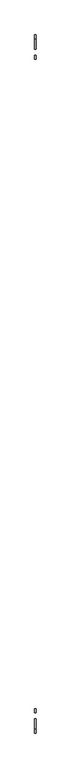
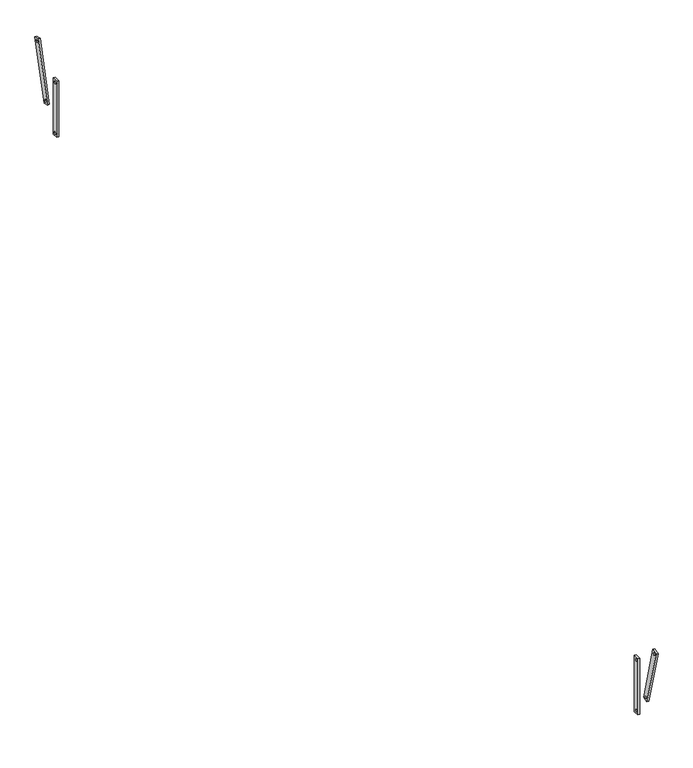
"""IFC4 building model written with IfcOpenShell, lengths in millimetres: proxy geometry, Modelos genéricos 291 : Modelos genéricos 278."""

import ifcopenshell
import ifcopenshell.guid

model = None  # the IFC model being written
_history = None  # IfcOwnerHistory: only IFC2X3 demands one
_inside = {}  # id of a spatial element -> (the spatial element, [elements in it])
_under = {}  # id of a project, library or spatial element -> (it, [spatial elements below it])
_declared = {}  # id of a project -> (the project, [libraries it declares])
_typed = {}  # id of a type object -> (the type object, [elements of that type])
_made_of = {}  # id of a material, layer set ... -> (it, [elements and type objects made of it])


def new_model(schema):
    """Start an empty IFC model of exactly this schema.

    Asked for "IFC4X3", IfcOpenShell would pick the latest addendum, in which some entities
    have other attributes; the version numbers below select the first issue.
    IFC2X3 requires an IfcOwnerHistory on every rooted entity: one is made here for all.
    """
    global model, _history
    if schema == "IFC4X3":
        model = ifcopenshell.file(schema_version=(4, 3, 0, 0))
    else:
        model = ifcopenshell.file(schema=schema)
    _inside.clear()
    _under.clear()
    _declared.clear()
    _typed.clear()
    _made_of.clear()
    _history = None
    if model.schema == "IFC2X3":
        org = make("IfcOrganization", Name="unknown")
        user = make(
            "IfcPersonAndOrganization",
            ThePerson=make("IfcPerson", FamilyName="unknown"),
            TheOrganization=org,
        )
        app = make(
            "IfcApplication",
            ApplicationDeveloper=org,
            Version="unknown",
            ApplicationFullName="unknown",
            ApplicationIdentifier="unknown",
        )
        _history = make(
            "IfcOwnerHistory",
            OwningUser=user,
            OwningApplication=app,
            ChangeAction="ADDED",
            CreationDate=0,
        )
    return model


def make(cls, **values):
    """One entity of the class cls with the attributes given. An attribute that is None is left unset."""
    return model.create_entity(
        cls, **{name: value for name, value in values.items() if value is not None}
    )


def rooted(cls, **values):
    """An entity with a GlobalId (a new one), such as an element, a storey or a relation."""
    return make(cls, GlobalId=ifcopenshell.guid.new(), OwnerHistory=_history, **values)


def si_unit(unit_type, name, prefix=None):
    """IfcSIUnit, for example si_unit("LENGTHUNIT", "METRE", prefix="MILLI")."""
    return make("IfcSIUnit", UnitType=unit_type, Prefix=prefix, Name=name)


def assignment(units):
    """IfcUnitAssignment: the units of a project."""
    return None if units is None else make("IfcUnitAssignment", Units=units)


def point(xyz):
    """IfcCartesianPoint."""
    return None if xyz is None else make("IfcCartesianPoint", Coordinates=xyz)


def direction(xyz):
    """IfcDirection."""
    return None if xyz is None else make("IfcDirection", DirectionRatios=xyz)


def frame(location, z_axis=None, x_axis=None):
    """IfcAxis2Placement3D, a coordinate frame: its origin and axes. An axis left out is left unset."""
    return make(
        "IfcAxis2Placement3D",
        Location=point(location),
        Axis=direction(z_axis),
        RefDirection=direction(x_axis),
    )


def frame_2d(location, x_axis=None):
    """IfcAxis2Placement2D, a coordinate frame in the plane: its origin and x axis."""
    return make(
        "IfcAxis2Placement2D", Location=point(location), RefDirection=direction(x_axis)
    )


def origin():
    """The frame at (0, 0, 0) with its axes left unset."""
    return frame((0.0, 0.0, 0.0))


def place(relative_to, where):
    """IfcLocalPlacement: puts the frame where relative to a parent placement (None: the world)."""
    return make(
        "IfcLocalPlacement", PlacementRelTo=relative_to, RelativePlacement=where
    )


def context(
    kind, dimensions, precision=None, world=None, true_north=None, identifier=None
):
    """IfcGeometricRepresentationContext, for example the 3D "Model" context."""
    return make(
        "IfcGeometricRepresentationContext",
        ContextIdentifier=identifier,
        ContextType=kind,
        CoordinateSpaceDimension=dimensions,
        Precision=precision,
        WorldCoordinateSystem=world,
        TrueNorth=true_north,
    )


def project(units=None, contexts=None):
    """IfcProject with its units and contexts."""
    return rooted(
        "IfcProject",
        Name="project",
        RepresentationContexts=contexts,
        UnitsInContext=assignment(units),
    )


def spatial(cls, under=None, at=None, **own):
    """A site, building, storey or space (cls), placed at a placement, below another one or the project."""
    s = rooted(cls, ObjectPlacement=at, **own)
    if under is not None:
        _under.setdefault(under.id(), (under, []))[1].append(s)
    return s


def polyline(points):
    """IfcPolyline through the points."""
    return make("IfcPolyline", Points=[point(p) for p in points])


def circle_curve(where, radius):
    """IfcCircle in the frame where."""
    return make("IfcCircle", Position=where, Radius=radius)


def trimmed(basis, trim1, trim2, sense, master):
    """IfcTrimmedCurve: the piece of a basis curve between two trims."""
    return make(
        "IfcTrimmedCurve",
        BasisCurve=basis,
        Trim1=trim1,
        Trim2=trim2,
        SenseAgreement=sense,
        MasterRepresentation=master,
    )


def segment(curve, same_sense, transition):
    """IfcCompositeCurveSegment."""
    return make(
        "IfcCompositeCurveSegment",
        Transition=transition,
        SameSense=same_sense,
        ParentCurve=curve,
    )


def composite_curve(segments, self_intersect=None):
    """IfcCompositeCurve: segments joined end to end."""
    return make("IfcCompositeCurve", Segments=segments, SelfIntersect=self_intersect)


def outline(outer, holes=None, kind="AREA"):
    """IfcArbitraryClosedProfileDef: a profile drawn as a closed curve; with holes, ...WithVoids."""
    if holes is None:
        return make("IfcArbitraryClosedProfileDef", ProfileType=kind, OuterCurve=outer)
    return make(
        "IfcArbitraryProfileDefWithVoids",
        ProfileType=kind,
        OuterCurve=outer,
        InnerCurves=holes,
    )


def extrude(swept, where, along, depth):
    """IfcExtrudedAreaSolid: the profile swept, set in the frame where, extruded along a direction by depth."""
    return make(
        "IfcExtrudedAreaSolid",
        SweptArea=swept,
        Position=where,
        ExtrudedDirection=direction(along),
        Depth=depth,
    )


def shape(context_of_items, identifier, shape_type, items):
    """IfcShapeRepresentation: the items that make up one representation, for example the "Body"."""
    return make(
        "IfcShapeRepresentation",
        ContextOfItems=context_of_items,
        RepresentationIdentifier=identifier,
        RepresentationType=shape_type,
        Items=items,
    )


def source(mapping_origin, context_of_items, identifier, shape_type, items):
    """IfcRepresentationMap: a shape defined once, which mapped items show again and again."""
    return make(
        "IfcRepresentationMap",
        MappingOrigin=mapping_origin,
        MappedRepresentation=shape(context_of_items, identifier, shape_type, items),
    )


def transform(
    local_origin,
    x_axis=None,
    y_axis=None,
    z_axis=None,
    scale=None,
    scale2=None,
    scale3=None,
    uniform=True,
):
    """IfcCartesianTransformationOperator3D, or its non-uniform kind. x_axis, y_axis, z_axis: its Axis1, 2, 3."""
    if uniform:
        return make(
            "IfcCartesianTransformationOperator3D",
            Axis1=direction(x_axis),
            Axis2=direction(y_axis),
            LocalOrigin=point(local_origin),
            Scale=scale,
            Axis3=direction(z_axis),
        )
    return make(
        "IfcCartesianTransformationOperator3DnonUniform",
        Axis1=direction(x_axis),
        Axis2=direction(y_axis),
        LocalOrigin=point(local_origin),
        Scale=scale,
        Axis3=direction(z_axis),
        Scale2=scale2,
        Scale3=scale3,
    )


def mapped(mapping_source, mapping_target):
    """IfcMappedItem: shows the shape of a source again, moved by a transform."""
    return make(
        "IfcMappedItem", MappingSource=mapping_source, MappingTarget=mapping_target
    )


def made_of(thing, what):
    """Note that an element or type object is made of a material, layer set ...; save() writes the relation."""
    if what is not None:
        _made_of.setdefault(what.id(), (what, []))[1].append(thing)
    return thing


def element(
    cls,
    number,
    at=None,
    inside=None,
    cuts=None,
    type_object=None,
    material=None,
    context=None,
    identifier="Body",
    shape_type=None,
    held_by="IfcProductDefinitionShape",
    body=None,
    shapes=None,
    **own,
):
    """One element of the class cls, such as IfcWall. Its Tag is "e" and its number.

    at: its placement. inside: the storey or other place that contains it. cuts: it is an
    opening in that element (IfcRelVoidsElement). A single representation is given by context,
    identifier, shape_type and body (its items); several are given by shapes. held_by: the class
    of the entity that holds the representations. save() writes the other relations.
    """
    e = rooted(cls, Tag="e%d" % number, ObjectPlacement=at, **own)
    if body is not None:
        shapes = [shape(context, identifier, shape_type, body)]
    if shapes is not None:
        e.Representation = make(held_by, Representations=shapes)
    if inside is not None:
        _inside.setdefault(inside.id(), (inside, []))[1].append(e)
    if cuts is not None:
        rooted(
            "IfcRelVoidsElement", RelatingBuildingElement=cuts, RelatedOpeningElement=e
        )
    if type_object is not None:
        _typed.setdefault(type_object.id(), (type_object, []))[1].append(e)
    return made_of(e, material)


def aggregate(whole, parts):
    """IfcRelAggregates: a whole, such as a stair, and the parts it consists of."""
    return rooted("IfcRelAggregates", RelatingObject=whole, RelatedObjects=parts)


def save(model, path):
    """Write the relations noted so far, then the file.

    IfcRelAggregates (storeys below a building ...), IfcRelContainedInSpatialStructure (elements
    in a storey), IfcRelDefinesByType, IfcRelAssociatesMaterial and IfcRelDeclares: one each for
    every whole, place, type object, material and project.
    """
    for whole, parts in _under.values():
        aggregate(whole, parts)
    for where, things in _inside.values():
        rooted(
            "IfcRelContainedInSpatialStructure",
            RelatedElements=things,
            RelatingStructure=where,
        )
    for kind, things in _typed.values():
        rooted("IfcRelDefinesByType", RelatedObjects=things, RelatingType=kind)
    for what, things in _made_of.values():
        rooted("IfcRelAssociatesMaterial", RelatedObjects=things, RelatingMaterial=what)
    for by, libraries in _declared.values():
        rooted("IfcRelDeclares", RelatingContext=by, RelatedDefinitions=libraries)
    model.write(path)


def generic_models_19469829(model_context):
    return source(origin(), model_context, "Body", "SweptSolid", [
        extrude(outline(polyline([(5318.6238165, 2800.0), (5318.6238165, 3200.0), (5358.6238165, 3200.0), (5358.6238165, 2800.0), (5318.6238165, 2800.0)]), holes=[composite_curve([segment(trimmed(circle_curve(frame_2d((5338.6238165, 3180.0)), 7.5), [point((5346.1238165, 3180.0))], [point((5331.1238165, 3180.0))], True, "CARTESIAN"), True, "CONTINUOUS"), segment(trimmed(circle_curve(frame_2d((5338.6238165, 3180.0)), 7.5), [point((5331.1238165, 3180.0))], [point((5346.1238165, 3180.0))], True, "CARTESIAN"), True, "CONTINUOUS")], self_intersect=False), composite_curve([segment(trimmed(circle_curve(frame_2d((5338.6238165, 2820.0)), 7.5), [point((5346.1238165, 2820.0))], [point((5331.1238165, 2820.0))], True, "CARTESIAN"), True, "CONTINUOUS"), segment(trimmed(circle_curve(frame_2d((5338.6238165, 2820.0)), 7.5), [point((5331.1238165, 2820.0))], [point((5346.1238165, 2820.0))], True, "CARTESIAN"), True, "CONTINUOUS")], self_intersect=False)]), frame((9283.4472467, 0.0, 0.0), z_axis=(1.0, 0.0, 0.0), x_axis=(0.0, 1.0, 0.0)), (0.0, 0.0, 1.0), 12.7),
        extrude(outline(polyline([(5424.7907615, 2966.5419368), (5533.4947604, 3372.2307838), (5572.1317934, 3361.878022), (5463.4277945, 2956.1891749), (5424.7907615, 2966.5419368)]), holes=[composite_curve([segment(trimmed(circle_curve(frame_2d((5547.636896, 3347.7358864)), 7.5), [point((5554.8813397, 3345.7947435))], [point((5540.3924523, 3349.6770292))], True, "CARTESIAN"), True, "CONTINUOUS"), segment(trimmed(circle_curve(frame_2d((5547.636896, 3347.7358864)), 7.5), [point((5540.3924523, 3349.6770292))], [point((5554.8813397, 3345.7947435))], True, "CARTESIAN"), True, "CONTINUOUS")], self_intersect=False), composite_curve([segment(trimmed(circle_curve(frame_2d((5449.2856589, 2980.6840724)), 7.5), [point((5456.5301026, 2978.7429295))], [point((5442.0412152, 2982.6252152))], True, "CARTESIAN"), True, "CONTINUOUS"), segment(trimmed(circle_curve(frame_2d((5449.2856589, 2980.6840724)), 7.5), [point((5442.0412152, 2982.6252152))], [point((5456.5301026, 2978.7429295))], True, "CARTESIAN"), True, "CONTINUOUS")], self_intersect=False)]), frame((9283.4472467, 0.0, 0.0), z_axis=(1.0, 0.0, 0.0), x_axis=(0.0, 1.0, 0.0)), (0.0, 0.0, 1.0), 12.7),
        extrude(outline(polyline([(-1421.3761835, 2800.0), (-1461.3761835, 2800.0), (-1461.3761835, 3200.0), (-1421.3761835, 3200.0), (-1421.3761835, 2800.0)]), holes=[composite_curve([segment(trimmed(circle_curve(frame_2d((-1441.3761835, 3180.0)), 7.5), [point((-1448.8761835, 3180.0))], [point((-1433.8761835, 3180.0))], True, "CARTESIAN"), True, "CONTINUOUS"), segment(trimmed(circle_curve(frame_2d((-1441.3761835, 3180.0)), 7.5), [point((-1433.8761835, 3180.0))], [point((-1448.8761835, 3180.0))], True, "CARTESIAN"), True, "CONTINUOUS")], self_intersect=False), composite_curve([segment(trimmed(circle_curve(frame_2d((-1441.3761835, 2820.0)), 7.5), [point((-1448.8761835, 2820.0))], [point((-1433.8761835, 2820.0))], True, "CARTESIAN"), True, "CONTINUOUS"), segment(trimmed(circle_curve(frame_2d((-1441.3761835, 2820.0)), 7.5), [point((-1433.8761835, 2820.0))], [point((-1448.8761835, 2820.0))], True, "CARTESIAN"), True, "CONTINUOUS")], self_intersect=False)]), frame((9283.4472467, 0.0, 0.0), z_axis=(1.0, 0.0, 0.0), x_axis=(0.0, 1.0, 0.0)), (0.0, 0.0, 1.0), 12.7),
        extrude(outline(polyline([(-1527.5431285, 2966.5419368), (-1566.1801615, 2956.1891749), (-1674.8841605, 3361.878022), (-1636.2471274, 3372.2307838), (-1527.5431285, 2966.5419368)]), holes=[composite_curve([segment(trimmed(circle_curve(frame_2d((-1650.389263, 3347.7358864)), 7.5), [point((-1657.6337067, 3345.7947435))], [point((-1643.1448193, 3349.6770292))], True, "CARTESIAN"), True, "CONTINUOUS"), segment(trimmed(circle_curve(frame_2d((-1650.389263, 3347.7358864)), 7.5), [point((-1643.1448193, 3349.6770292))], [point((-1657.6337067, 3345.7947435))], True, "CARTESIAN"), True, "CONTINUOUS")], self_intersect=False), composite_curve([segment(trimmed(circle_curve(frame_2d((-1552.0380259, 2980.6840724)), 7.5), [point((-1559.2824696, 2978.7429295))], [point((-1544.7935822, 2982.6252152))], True, "CARTESIAN"), True, "CONTINUOUS"), segment(trimmed(circle_curve(frame_2d((-1552.0380259, 2980.6840724)), 7.5), [point((-1544.7935822, 2982.6252152))], [point((-1559.2824696, 2978.7429295))], True, "CARTESIAN"), True, "CONTINUOUS")], self_intersect=False)]), frame((9283.4472467, 0.0, 0.0), z_axis=(1.0, 0.0, 0.0), x_axis=(0.0, 1.0, 0.0)), (0.0, 0.0, 1.0), 12.7),
    ])


if __name__ == "__main__":
    model = new_model("IFC4")
    model_context = context("Model", 3, world=origin())
    ifc_project = project(units=[si_unit("LENGTHUNIT", "METRE", prefix="MILLI")], contexts=[model_context])
    site = spatial("IfcSite", under=ifc_project)
    building = spatial("IfcBuilding", under=site)
    placement = place(None, origin())
    generic_models_shape = generic_models_19469829(model_context)
    element("IfcBuildingElementProxy", 1, Name="Modelos genéricos 291 : Modelos genéricos 278", ObjectType="Modelos genéricos 291 : Modelos genéricos 278", at=placement, inside=building, context=model_context, shape_type="MappedRepresentation", body=[
        mapped(generic_models_shape, transform((0.0, 0.0, 0.0), x_axis=(1.0, 0.0, 0.0), y_axis=(0.0, 1.0, 0.0), z_axis=(0.0, 0.0, 1.0))),
    ])
    save(model, "model.ifc")
